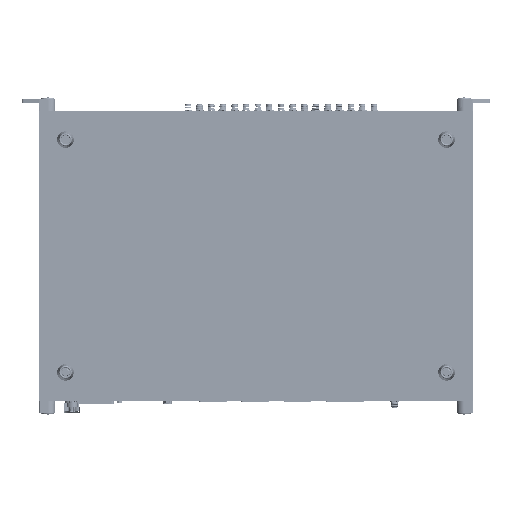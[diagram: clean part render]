
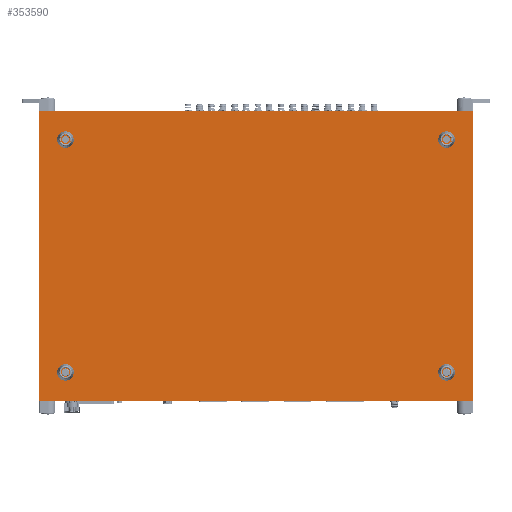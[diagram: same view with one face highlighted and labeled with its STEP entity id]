
A CAD part, front view. The second image highlights one B-rep face of the part: STEP entity #353590.
In plain terms, the highlighted planar face has unit normal (0, -1, 0).
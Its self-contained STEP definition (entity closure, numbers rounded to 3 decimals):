
#9688 = ORIENTED_EDGE ( 'NONE', *, *, #100271, .F. ) ;
#15136 = ORIENTED_EDGE ( 'NONE', *, *, #300940, .F. ) ;
#16280 = AXIS2_PLACEMENT_3D ( 'NONE', #76740, #289696, #366056 ) ;
#16319 = FACE_BOUND ( 'NONE', #153070, .T. ) ;
#17387 = LINE ( 'NONE', #287215, #29404 ) ;
#20466 = VECTOR ( 'NONE', #242489, 1000. ) ;
#26255 = CARTESIAN_POINT ( 'NONE',  ( -172., -43.8, -93.35 ) ) ;
#27839 = EDGE_LOOP ( 'NONE', ( #152963 ) ) ;
#29404 = VECTOR ( 'NONE', #135804, 1000. ) ;
#29661 = CARTESIAN_POINT ( 'NONE',  ( -195.5, -43.8, 140.5 ) ) ;
#29918 = ORIENTED_EDGE ( 'NONE', *, *, #155937, .T. ) ;
#43522 = CARTESIAN_POINT ( 'NONE',  ( 0., -43.8, 10. ) ) ;
#58322 = EDGE_CURVE ( 'NONE', #242562, #242562, #144652, .T. ) ;
#64730 = DIRECTION ( 'NONE',  ( 0., 1., 0. ) ) ;
#72658 = FACE_OUTER_BOUND ( 'NONE', #377199, .T. ) ;
#76740 = CARTESIAN_POINT ( 'NONE',  ( 172., -43.8, -95. ) ) ;
#83681 = CARTESIAN_POINT ( 'NONE',  ( 195.5, -43.8, 140.5 ) ) ;
#87330 = CARTESIAN_POINT ( 'NONE',  ( 195.5, -43.8, 140.5 ) ) ;
#91023 = VECTOR ( 'NONE', #206391, 1000. ) ;
#100271 = EDGE_CURVE ( 'NONE', #263755, #141231, #297561, .T. ) ;
#114084 = DIRECTION ( 'NONE',  ( 0., 0., 1. ) ) ;
#114580 = DIRECTION ( 'NONE',  ( -1., 0., 0. ) ) ;
#115325 = DIRECTION ( 'NONE',  ( 0., 1., 0. ) ) ;
#117893 = CARTESIAN_POINT ( 'NONE',  ( -172., -43.8, 115. ) ) ;
#123006 = DIRECTION ( 'NONE',  ( 0., 0., 1. ) ) ;
#124869 = CARTESIAN_POINT ( 'NONE',  ( 195.5, -43.8, -120.5 ) ) ;
#135804 = DIRECTION ( 'NONE',  ( 0., 0., 1. ) ) ;
#140906 = AXIS2_PLACEMENT_3D ( 'NONE', #43522, #161973, #192998 ) ;
#141231 = VERTEX_POINT ( 'NONE', #83681 ) ;
#142537 = DIRECTION ( 'NONE',  ( 0., 0., 1. ) ) ;
#144652 = CIRCLE ( 'NONE', #194302, 1.65 ) ;
#150065 = CARTESIAN_POINT ( 'NONE',  ( 172., -43.8, -93.35 ) ) ;
#152963 = ORIENTED_EDGE ( 'NONE', *, *, #58322, .T. ) ;
#153070 = EDGE_LOOP ( 'NONE', ( #268716 ) ) ;
#155937 = EDGE_CURVE ( 'NONE', #176539, #176539, #204624, .T. ) ;
#161973 = DIRECTION ( 'NONE',  ( 0., 1., 0. ) ) ;
#162881 = ORIENTED_EDGE ( 'NONE', *, *, #268500, .F. ) ;
#167675 = CIRCLE ( 'NONE', #341415, 1.65 ) ;
#176539 = VERTEX_POINT ( 'NONE', #263946 ) ;
#176597 = ORIENTED_EDGE ( 'NONE', *, *, #323460, .F. ) ;
#192998 = DIRECTION ( 'NONE',  ( 0., 0., 1. ) ) ;
#194302 = AXIS2_PLACEMENT_3D ( 'NONE', #280522, #115325, #142537 ) ;
#201977 = LINE ( 'NONE', #260194, #323635 ) ;
#204624 = CIRCLE ( 'NONE', #285272, 1.65 ) ;
#206391 = DIRECTION ( 'NONE',  ( 1., 0., 0. ) ) ;
#206396 = CARTESIAN_POINT ( 'NONE',  ( -195.5, -43.8, -120.5 ) ) ;
#229645 = VERTEX_POINT ( 'NONE', #124869 ) ;
#233275 = CIRCLE ( 'NONE', #16280, 1.65 ) ;
#233946 = ORIENTED_EDGE ( 'NONE', *, *, #307141, .T. ) ;
#241246 = VERTEX_POINT ( 'NONE', #150065 ) ;
#242489 = DIRECTION ( 'NONE',  ( 0., 0., -1. ) ) ;
#242562 = VERTEX_POINT ( 'NONE', #360972 ) ;
#247177 = CARTESIAN_POINT ( 'NONE',  ( -172., -43.8, -95. ) ) ;
#251666 = VERTEX_POINT ( 'NONE', #206396 ) ;
#253222 = FACE_BOUND ( 'NONE', #27839, .T. ) ;
#260194 = CARTESIAN_POINT ( 'NONE',  ( -195.5, -43.8, -120.5 ) ) ;
#263755 = VERTEX_POINT ( 'NONE', #368559 ) ;
#263946 = CARTESIAN_POINT ( 'NONE',  ( -172., -43.8, 116.65 ) ) ;
#268500 = EDGE_CURVE ( 'NONE', #229645, #251666, #201977, .T. ) ;
#268716 = ORIENTED_EDGE ( 'NONE', *, *, #326626, .T. ) ;
#280522 = CARTESIAN_POINT ( 'NONE',  ( 172., -43.8, 115. ) ) ;
#285272 = AXIS2_PLACEMENT_3D ( 'NONE', #117893, #294600, #114084 ) ;
#287215 = CARTESIAN_POINT ( 'NONE',  ( -195.5, -43.8, -120.5 ) ) ;
#289696 = DIRECTION ( 'NONE',  ( 0., 1., 0. ) ) ;
#292235 = VERTEX_POINT ( 'NONE', #26255 ) ;
#294600 = DIRECTION ( 'NONE',  ( 0., 1., 0. ) ) ;
#297561 = LINE ( 'NONE', #29661, #91023 ) ;
#300743 = EDGE_LOOP ( 'NONE', ( #233946 ) ) ;
#300940 = EDGE_CURVE ( 'NONE', #141231, #229645, #353234, .T. ) ;
#307141 = EDGE_CURVE ( 'NONE', #241246, #241246, #233275, .T. ) ;
#309476 = PLANE ( 'NONE',  #140906 ) ;
#311431 = FACE_BOUND ( 'NONE', #300743, .T. ) ;
#323460 = EDGE_CURVE ( 'NONE', #251666, #263755, #17387, .T. ) ;
#323635 = VECTOR ( 'NONE', #114580, 1000. ) ;
#326626 = EDGE_CURVE ( 'NONE', #292235, #292235, #167675, .T. ) ;
#338615 = FACE_BOUND ( 'NONE', #379339, .T. ) ;
#341415 = AXIS2_PLACEMENT_3D ( 'NONE', #247177, #64730, #123006 ) ;
#353234 = LINE ( 'NONE', #87330, #20466 ) ;
#353590 = ADVANCED_FACE ( 'NONE', ( #16319, #311431, #253222, #338615, #72658 ), #309476, .F. ) ;
#360972 = CARTESIAN_POINT ( 'NONE',  ( 172., -43.8, 116.65 ) ) ;
#366056 = DIRECTION ( 'NONE',  ( 0., 0., 1. ) ) ;
#368559 = CARTESIAN_POINT ( 'NONE',  ( -195.5, -43.8, 140.5 ) ) ;
#377199 = EDGE_LOOP ( 'NONE', ( #176597, #162881, #15136, #9688 ) ) ;
#379339 = EDGE_LOOP ( 'NONE', ( #29918 ) ) ;
